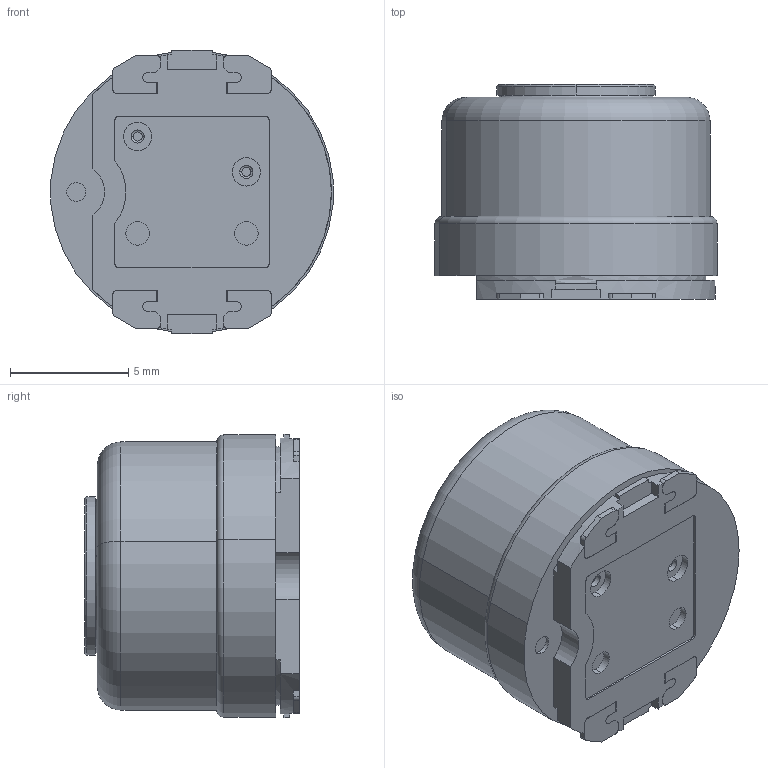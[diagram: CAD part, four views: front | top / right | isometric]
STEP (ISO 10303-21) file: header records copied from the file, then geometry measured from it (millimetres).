
FILE_DESCRIPTION(('Creo Elements/Direct Modeling STEP Export'),'2;1');
FILE_NAME('229S.stp','2013-04-07T23:07:33',(''),(''),'Creo Elements/Direct Modeling STEP processor for AP214 (Solid Model)','Creo Elements/Direct Modeling 18.1C 24-Feb-2013 (C) Parametric Technology GmbH','');
FILE_SCHEMA(('AUTOMOTIVE_DESIGN { 1 0 10303 214 1 1 1 1 }'));
Length unit declared in the file: millimetre
Products named in the file (2): 229S.prt; 229S.stp
Assembly tree (1 placements, depth 2):
  229S.stp
    229S.prt
Bounding box: 11.95 x 9.09 x 12 mm (x, y, z)
Volume: 884.1 mm3; surface area: 925.1 mm2
Topology: 1 solids, 14 shells, 295 faces, 736 edges, 481 vertices
Faces by surface type: plane 164, cylinder 92, torus 29, cone 10
Entity records: 11285 total; most frequent: CARTESIAN_POINT 1577, DIRECTION 1508, ORIENTED_EDGE 1472, EDGE_CURVE 736, AXIS2_PLACEMENT_3D 534, VERTEX_POINT 481, VECTOR 440, LINE 440
